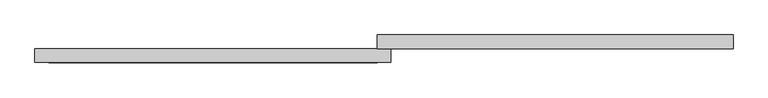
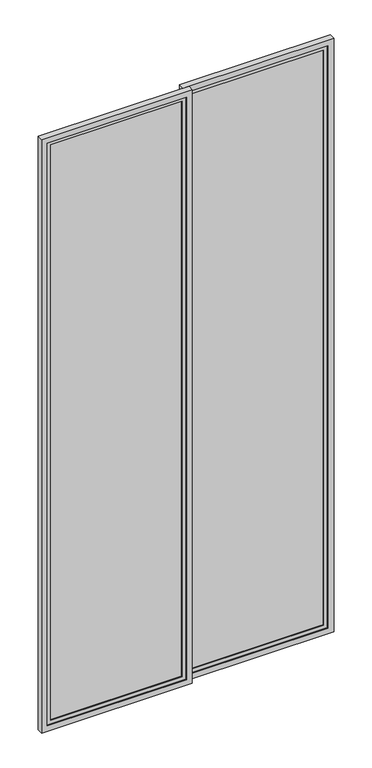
"""IFC4 building model written with IfcOpenShell, lengths in millimetres: plate geometry, 帷幕橫拉窗 : 帷幕橫拉窗."""

from ifc_helpers import new_model, si_unit, frame, origin, place, context, project, spatial, polyline, outline, extrude, source, transform, mapped, element, save


def plate_54f529d7(model_context):
    return source(origin(), model_context, "Body", "SweptSolid", [
        extrude(outline(polyline([(0.0, -15.0), (0.0, 761.2500001), (3230.0, 761.2500001), (3230.0, -15.0), (0.0, -15.0)]), holes=[polyline([(30.0, 15.0), (3200.0, 15.0), (3200.0, 731.2500001), (30.0, 731.2500001), (30.0, 15.0)])]), frame((0.0, 0.0, 0.0), z_axis=(0.0, 1.0, 0.0), x_axis=(0.0, 0.0, 1.0)), (0.0, 0.0, 1.0), 30.0),
        extrude(outline(polyline([(711.2500001, 10.0), (35.0, 10.0), (35.0, 20.0), (711.2500001, 20.0), (711.2500001, 10.0)])), frame((0.0, 0.0, 50.0), z_axis=(0.0, 0.0, 1.0), x_axis=(1.0, 0.0, 0.0)), (0.0, 0.0, 1.0), 3130.0),
        extrude(outline(polyline([(3200.0, 731.2500001), (3200.0, 15.0), (30.0, 15.0), (30.0, 731.2500001), (3200.0, 731.2500001)]), holes=[polyline([(3180.0, 35.0), (3180.0, 711.2500001), (50.0, 711.2500001), (50.0, 35.0), (3180.0, 35.0)])]), frame((0.0, 5.0, 0.0), z_axis=(0.0, 1.0, 0.0), x_axis=(0.0, 0.0, 1.0)), (0.0, 0.0, 1.0), 20.0),
        extrude(outline(polyline([(-35.0, -20.0), (-711.2500001, -20.0), (-711.2500001, -10.0), (-35.0, -10.0), (-35.0, -20.0)])), frame((0.0, 0.0, 50.0), z_axis=(0.0, 0.0, 1.0), x_axis=(1.0, 0.0, 0.0)), (0.0, 0.0, 1.0), 3130.0),
        extrude(outline(polyline([(3200.0, -731.2500001), (30.0, -731.2500001), (30.0, -15.0), (3200.0, -15.0), (3200.0, -731.2500001)]), holes=[polyline([(3180.0, -711.2500001), (3180.0, -35.0), (50.0, -35.0), (50.0, -711.2500001), (3180.0, -711.2500001)])]), frame((0.0, -25.0, 0.0), z_axis=(0.0, 1.0, 0.0), x_axis=(0.0, 0.0, 1.0)), (0.0, 0.0, 1.0), 20.0),
        extrude(outline(polyline([(3230.0, -761.2500001), (0.0, -761.2500001), (0.0, 15.0), (3230.0, 15.0), (3230.0, -761.2500001)]), holes=[polyline([(3200.0, -15.0), (30.0, -15.0), (30.0, -731.2500001), (3200.0, -731.2500001), (3200.0, -15.0)])]), frame((0.0, -30.0, 0.0), z_axis=(0.0, 1.0, 0.0), x_axis=(0.0, 0.0, 1.0)), (0.0, 0.0, 1.0), 30.0),
    ])


if __name__ == "__main__":
    model = new_model("IFC4")
    model_context = context("Model", 3, world=origin())
    ifc_project = project(units=[si_unit("LENGTHUNIT", "METRE", prefix="MILLI")], contexts=[model_context])
    site = spatial("IfcSite", under=ifc_project)
    building = spatial("IfcBuilding", under=site)
    placement = place(None, origin())
    plate_shape = plate_54f529d7(model_context)
    element("IfcPlate", 1, ObjectType="帷幕橫拉窗 : 帷幕橫拉窗", at=placement, inside=building, context=model_context, shape_type="MappedRepresentation", body=[
        mapped(plate_shape, transform((0.0, 0.0, 0.0), x_axis=(1.0, 0.0, 0.0), y_axis=(0.0, 1.0, 0.0), z_axis=(0.0, 0.0, 1.0))),
    ])
    save(model, "model.ifc")
